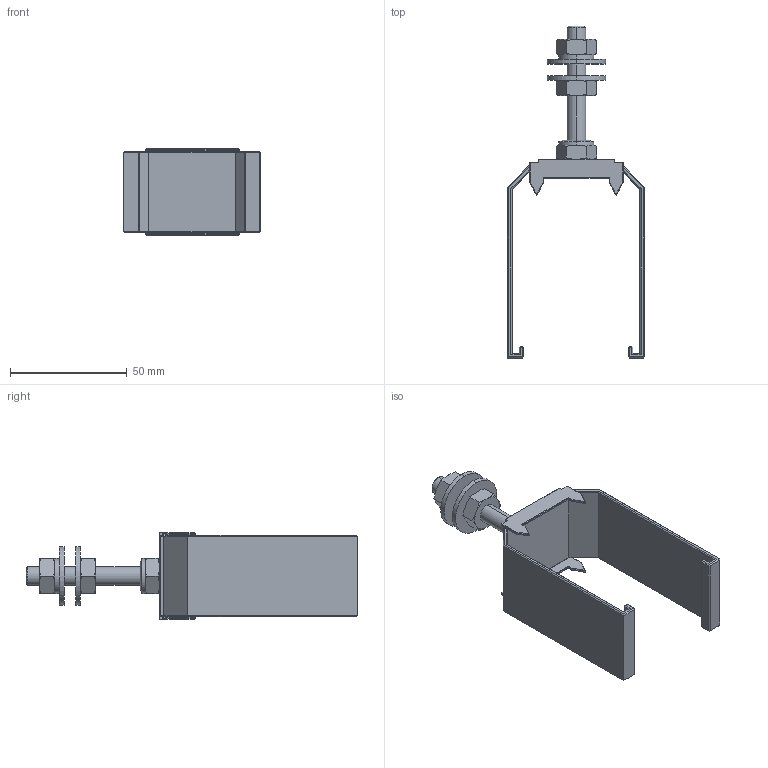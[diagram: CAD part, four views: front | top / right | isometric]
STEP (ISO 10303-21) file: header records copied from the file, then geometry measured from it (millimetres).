
FILE_DESCRIPTION (( 'STEP AP203' ), '1' );
FILE_NAME ('900.505.040.STEP', '2018-03-09T13:12:00', ( '' ), ( '' ), 'SwSTEP 2.0', 'SolidWorks 2016', '' );
FILE_SCHEMA (( 'CONFIG_CONTROL_DESIGN' ));
Length unit declared in the file: millimetre
Products named in the file (1): 900.505.040
Bounding box: 58.7 x 142 x 37 mm (x, y, z)
Volume: 26390.2 mm3; surface area: 22029.3 mm2
Topology: 1 solids, 1 shells, 260 faces, 591 edges, 340 vertices
Faces by surface type: plane 206, cone 38, cylinder 14, torus 2
Entity records: 7276 total; most frequent: CARTESIAN_POINT 1552, ORIENTED_EDGE 1182, DIRECTION 1105, EDGE_CURVE 591, VECTOR 455, LINE 455, VERTEX_POINT 340, AXIS2_PLACEMENT_3D 325
